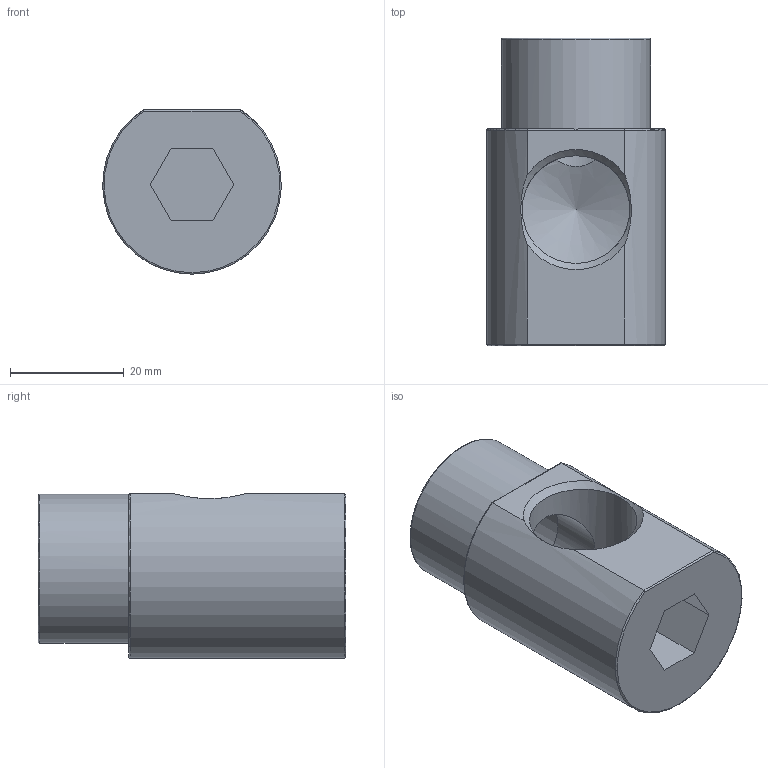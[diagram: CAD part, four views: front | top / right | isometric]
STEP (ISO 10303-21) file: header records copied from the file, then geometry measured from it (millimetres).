
FILE_DESCRIPTION(/* description */ (''),/* implementation_level */ '2;1');
FILE_NAME(/* name */ 'C:/Users/drich/Desktop/HKL12 v1.step',/* time_stamp */ '2019-12-27T17:57:39-06:00',/* author */ (''),/* organization */ (''),/* preprocessor_version */ 'ST-DEVELOPER v18',/* originating_system */ 'Autodesk Translation Framework v8.12.0.6',/* authorisation */ '');
FILE_SCHEMA (('AUTOMOTIVE_DESIGN { 1 0 10303 214 3 1 1 }'));
Length unit declared in the file: inch
Products named in the file (1): HKL12
Bounding box: 31.35 x 53.98 x 28.83 mm (x, y, z)
Volume: 23612.2 mm3; surface area: 8945.5 mm2
Topology: 1 solids, 1 shells, 26 faces, 69 edges, 44 vertices
Faces by surface type: plane 12, cylinder 7, cone 4, torus 3
Full cylindrical faces by diameter (mm): 15.875 x1, 18.901 x2, 26.162 x1
Entity records: 984 total; most frequent: CARTESIAN_POINT 306, ORIENTED_EDGE 136, DIRECTION 127, EDGE_CURVE 68, AXIS2_PLACEMENT_3D 46, VERTEX_POINT 44, LINE 35, VECTOR 35
